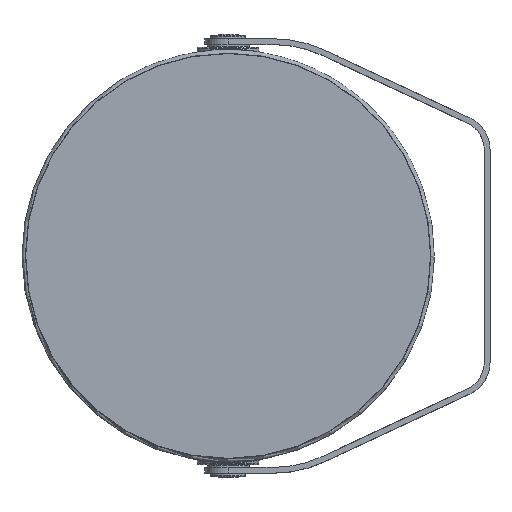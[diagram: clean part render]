
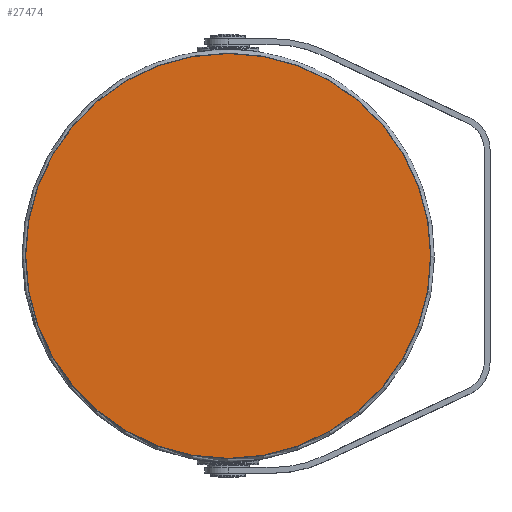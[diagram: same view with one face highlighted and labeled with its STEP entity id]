
A CAD part, top view. The second image highlights one B-rep face of the part: STEP entity #27474.
In plain terms, the highlighted planar face has unit normal (0, 0, 1).
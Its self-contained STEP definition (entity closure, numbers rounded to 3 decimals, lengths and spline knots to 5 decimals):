
#10742=ORIENTED_EDGE('',*,*,#15885,.F.);
#15885=EDGE_CURVE('',#18693,#18693,#20757,.T.);
#18693=VERTEX_POINT('',#59032);
#20757=CIRCLE('',#30340,0.17472);
#22707=EDGE_LOOP('',(#10742));
#24877=FACE_BOUND('',#22707,.T.);
#25692=PLANE('',#30339);
#27474=ADVANCED_FACE('',(#24877),#25692,.F.);
#30339=AXIS2_PLACEMENT_3D('',#59030,#36166,#36167);
#30340=AXIS2_PLACEMENT_3D('',#59031,#36168,#36169);
#36166=DIRECTION('',(0.,0.,-1.));
#36167=DIRECTION('',(0.,1.,0.));
#36168=DIRECTION('',(0.,0.,-1.));
#36169=DIRECTION('',(0.,1.,0.));
#59030=CARTESIAN_POINT('',(0.,0.,0.045));
#59031=CARTESIAN_POINT('',(0.,0.,0.045));
#59032=CARTESIAN_POINT('',(0.,0.17472,0.045));
